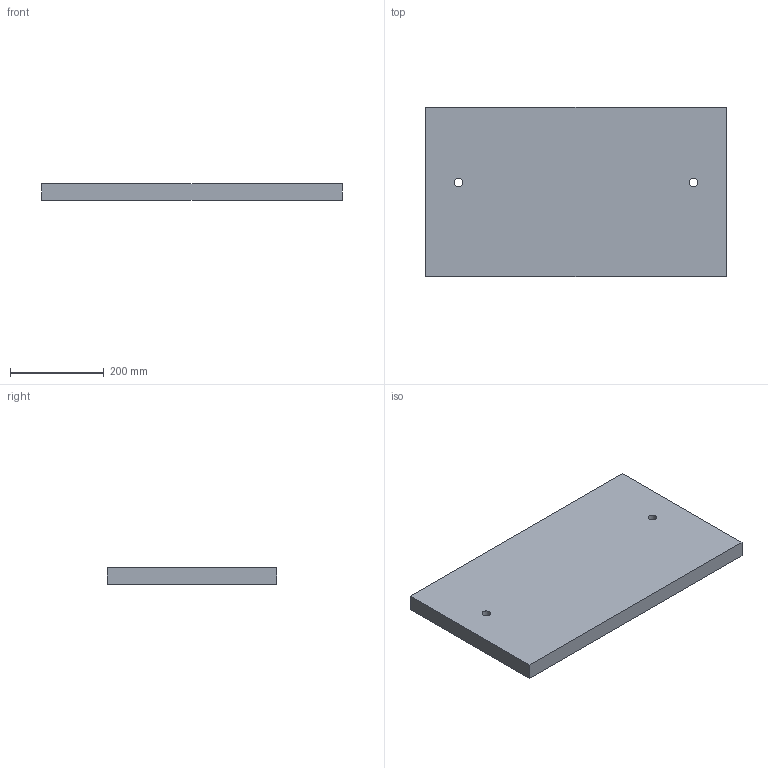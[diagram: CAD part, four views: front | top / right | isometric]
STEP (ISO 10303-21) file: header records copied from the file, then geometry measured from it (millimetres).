
FILE_DESCRIPTION(('Open CASCADE Model'),'2;1');
FILE_NAME('Open CASCADE Shape Model','2026-10-19T10:09:22',('Author'),( 'Open CASCADE'),'Open CASCADE STEP processor 8.0','Open CASCADE 8.0' ,'Unknown');
FILE_SCHEMA(('AUTOMOTIVE_DESIGN { 1 0 10303 214 1 1 1 1 }'));
Length unit declared in the file: millimetre
Products named in the file (1): TOPE_PLACA_REACCION_640x360x35_P05 148
Bounding box: 640 x 360 x 35 mm (x, y, z)
Volume: 8046187.2 mm3; surface area: 533740.5 mm2
Topology: 1 solids, 1 shells, 8 faces, 18 edges, 12 vertices
Faces by surface type: plane 6, cylinder 2
Full cylindrical faces by diameter (mm): 18 x2
Entity records: 490 total; most frequent: CARTESIAN_POINT 99, DIRECTION 72, LINE 46, VECTOR 46, ORIENTED_EDGE 36, PCURVE 36, DEFINITIONAL_REPRESENTATION 36, EDGE_CURVE 18
